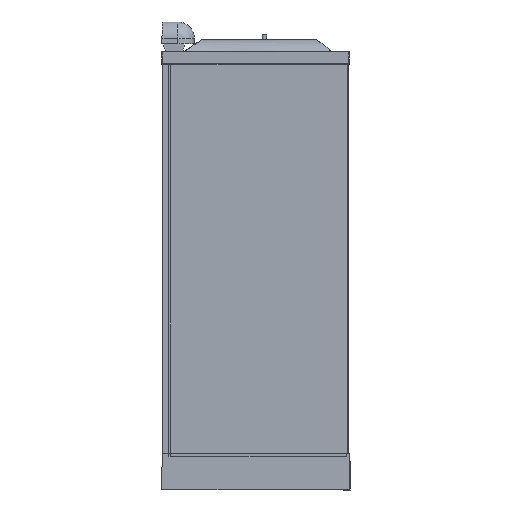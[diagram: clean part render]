
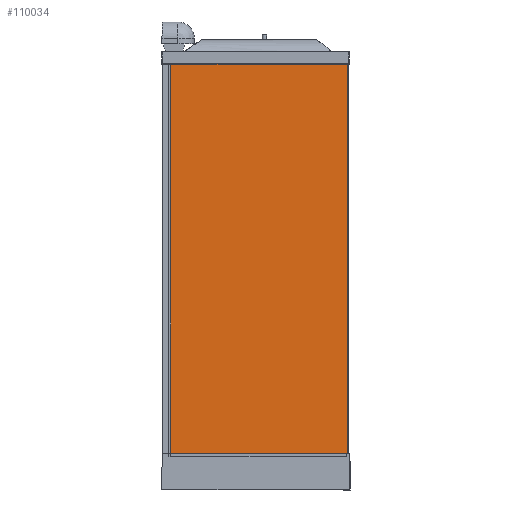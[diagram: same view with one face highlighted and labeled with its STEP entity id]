
A CAD part, left-side view. The second image highlights one B-rep face of the part: STEP entity #110034.
In plain terms, the highlighted free-form (B-spline) face has degree [1, 1] with [2, 2] control points.
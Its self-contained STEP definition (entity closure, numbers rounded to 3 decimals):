
#109673=CARTESIAN_POINT('',(-899.187,-888.39,168.06));
#109674=VERTEX_POINT('',#109673);
#109675=CARTESIAN_POINT('',(-899.187,-894.39,174.06));
#109676=VERTEX_POINT('',#109675);
#109677=CARTESIAN_POINT('',(-899.187,-888.39,168.06));
#109678=CARTESIAN_POINT('',(-899.187,-888.39,174.06));
#109679=CARTESIAN_POINT('',(-899.187,-894.39,174.06));
#109687=(BOUNDED_CURVE()B_SPLINE_CURVE(2,(#109677,#109678,#109679),.UNSPECIFIED.,.F.,.U.)CURVE()GEOMETRIC_REPRESENTATION_ITEM()QUASI_UNIFORM_CURVE()RATIONAL_B_SPLINE_CURVE((1.0,0.707,1.0))REPRESENTATION_ITEM(''));
#109688=EDGE_CURVE('',#109674,#109676,#109687,.T.);
#109729=CARTESIAN_POINT('',(-899.187,-888.39,163.06));
#109730=VERTEX_POINT('',#109729);
#109744=CARTESIAN_POINT('',(-899.187,-888.39,163.06));
#109745=DIRECTION('',(0.0,0.0,1.0));
#109746=VECTOR('',#109745,5.);
#109747=LINE('',#109744,#109746);
#109748=EDGE_CURVE('',#109730,#109674,#109747,.T.);
#109995=CARTESIAN_POINT('',(-899.187,-894.509,162.941));
#109996=CARTESIAN_POINT('',(-899.187,-894.509,2063.178));
#109997=CARTESIAN_POINT('',(-899.187,-43.293,162.941));
#109998=CARTESIAN_POINT('',(-899.187,-43.293,2063.178));
#109999=B_SPLINE_SURFACE_WITH_KNOTS('',1,1,((#109995,#109997),(#109996,#109998)),.UNSPECIFIED.,.F.,.F.,.U.,(2,2),(2,2),(1.237,1901.474),(8.711,859.926),.UNSPECIFIED.);
#110000=CARTESIAN_POINT('',(-899.187,-43.412,163.06));
#110001=VERTEX_POINT('',#110000);
#110002=CARTESIAN_POINT('',(-899.187,-43.412,163.06));
#110003=DIRECTION('',(0.,-1.,0.0));
#110004=VECTOR('',#110003,844.978);
#110005=LINE('',#110002,#110004);
#110006=EDGE_CURVE('',#110001,#109730,#110005,.T.);
#110007=ORIENTED_EDGE('',*,*,#110006,.T.);
#110008=ORIENTED_EDGE('',*,*,#109748,.T.);
#110009=ORIENTED_EDGE('',*,*,#109688,.T.);
#110010=CARTESIAN_POINT('',(-899.187,-894.39,2063.06));
#110011=VERTEX_POINT('',#110010);
#110012=CARTESIAN_POINT('',(-899.187,-894.39,174.06));
#110013=DIRECTION('',(0.0,0.0,1.0));
#110014=VECTOR('',#110013,1889.);
#110015=LINE('',#110012,#110014);
#110016=EDGE_CURVE('',#109676,#110011,#110015,.T.);
#110017=ORIENTED_EDGE('',*,*,#110016,.T.);
#110018=CARTESIAN_POINT('',(-899.187,-43.412,2063.06));
#110019=VERTEX_POINT('',#110018);
#110020=CARTESIAN_POINT('',(-899.187,-894.39,2063.06));
#110021=DIRECTION('',(0.,1.,0.0));
#110022=VECTOR('',#110021,850.978);
#110023=LINE('',#110020,#110022);
#110024=EDGE_CURVE('',#110011,#110019,#110023,.T.);
#110025=ORIENTED_EDGE('',*,*,#110024,.T.);
#110026=CARTESIAN_POINT('',(-899.187,-43.412,2063.06));
#110027=DIRECTION('',(0.0,0.0,-1.0));
#110028=VECTOR('',#110027,1900.0);
#110029=LINE('',#110026,#110028);
#110030=EDGE_CURVE('',#110019,#110001,#110029,.T.);
#110031=ORIENTED_EDGE('',*,*,#110030,.T.);
#110032=EDGE_LOOP('',(#110007,#110008,#110009,#110017,#110025,#110031));
#110033=FACE_OUTER_BOUND('',#110032,.T.);
#110034=ADVANCED_FACE('',(#110033),#109999,.T.);
